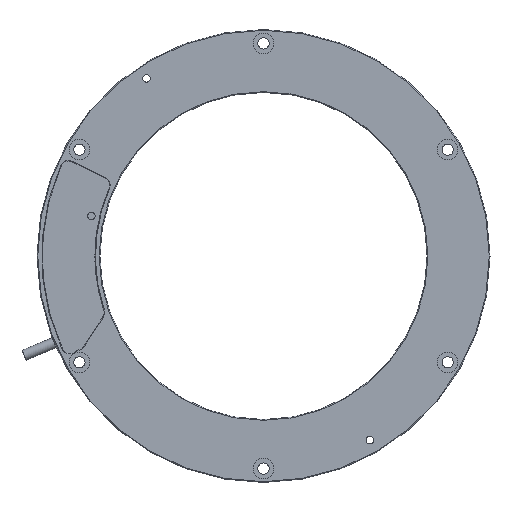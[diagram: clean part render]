
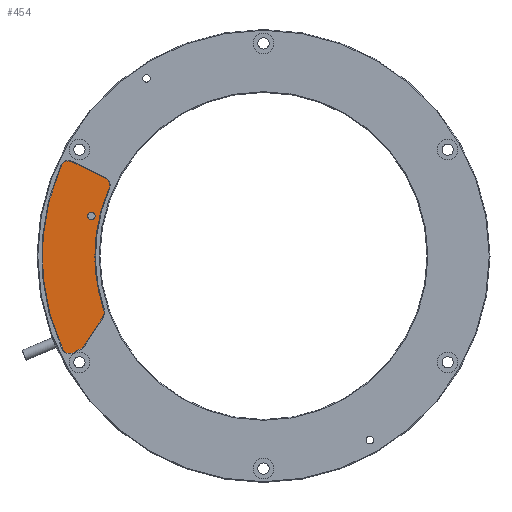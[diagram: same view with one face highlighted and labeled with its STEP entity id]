
A CAD part, front view. The second image highlights one B-rep face of the part: STEP entity #454.
In plain terms, the highlighted planar face has unit normal (0, -1, 0).
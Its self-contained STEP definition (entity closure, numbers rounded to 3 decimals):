
#141 = ORIENTED_EDGE ( 'NONE', *, *, #4641, .T. ) ;
#158 = CARTESIAN_POINT ( 'NONE',  ( 0., 0.2, 0. ) ) ;
#217 = EDGE_CURVE ( 'NONE', #6135, #1382, #6255, .T. ) ;
#219 = VERTEX_POINT ( 'NONE', #5140 ) ;
#263 = EDGE_CURVE ( 'NONE', #3100, #1396, #442, .T. ) ;
#306 = CARTESIAN_POINT ( 'NONE',  ( -62.836, 0.2, 30.919 ) ) ;
#442 = CIRCLE ( 'NONE', #4101, 67. ) ;
#454 = ADVANCED_FACE ( 'NONE', ( #4043, #5001 ), #5301, .T. ) ;
#479 = DIRECTION ( 'NONE',  ( 1., 0., 0. ) ) ;
#515 = DIRECTION ( 'NONE',  ( -0.897, 0., 0.442 ) ) ;
#533 = AXIS2_PLACEMENT_3D ( 'NONE', #693, #2750, #4667 ) ;
#584 = CARTESIAN_POINT ( 'NONE',  ( -80.325, 0.2, 35.944 ) ) ;
#693 = CARTESIAN_POINT ( 'NONE',  ( -66.39, 0.2, -22.502 ) ) ;
#756 = DIRECTION ( 'NONE',  ( 0., -1., 0. ) ) ;
#773 = EDGE_LOOP ( 'NONE', ( #879, #3454, #141, #5137, #2001, #5857, #5270, #4797, #4918, #6040, #5017, #3591 ) ) ;
#823 = DIRECTION ( 'NONE',  ( 0., -1., 0. ) ) ;
#879 = ORIENTED_EDGE ( 'NONE', *, *, #6173, .T. ) ;
#934 = EDGE_LOOP ( 'NONE', ( #5255, #3714 ) ) ;
#939 = DIRECTION ( 'NONE',  ( 0.892, 0., 0.452 ) ) ;
#996 = DIRECTION ( 'NONE',  ( 1., 0., 0. ) ) ;
#1010 = CARTESIAN_POINT ( 'NONE',  ( -71.751, 0.2, -36.401 ) ) ;
#1068 = DIRECTION ( 'NONE',  ( 1., 0., 0. ) ) ;
#1071 = VERTEX_POINT ( 'NONE', #6375 ) ;
#1141 = CARTESIAN_POINT ( 'NONE',  ( -75.663, 0.2, -38.386 ) ) ;
#1234 = EDGE_CURVE ( 'NONE', #2947, #6181, #3612, .T. ) ;
#1269 = CARTESIAN_POINT ( 'NONE',  ( 0., 0.2, 0. ) ) ;
#1315 = CARTESIAN_POINT ( 'NONE',  ( -64.205, 0.2, 28.138 ) ) ;
#1326 = AXIS2_PLACEMENT_3D ( 'NONE', #4516, #5442, #996 ) ;
#1382 = VERTEX_POINT ( 'NONE', #4398 ) ;
#1388 = VERTEX_POINT ( 'NONE', #2448 ) ;
#1396 = VERTEX_POINT ( 'NONE', #3826 ) ;
#1425 = CIRCLE ( 'NONE', #3223, 67. ) ;
#1575 = CIRCLE ( 'NONE', #533, 3.1 ) ;
#1767 = AXIS2_PLACEMENT_3D ( 'NONE', #3185, #756, #2250 ) ;
#1927 = CIRCLE ( 'NONE', #4911, 88. ) ;
#1943 = AXIS2_PLACEMENT_3D ( 'NONE', #1269, #5827, #4230 ) ;
#1953 = CARTESIAN_POINT ( 'NONE',  ( -66.9, 0.2, 15.9 ) ) ;
#2001 = ORIENTED_EDGE ( 'NONE', *, *, #3226, .T. ) ;
#2049 = CARTESIAN_POINT ( 'NONE',  ( -88., 0.2, 0. ) ) ;
#2083 = DIRECTION ( 'NONE',  ( 1., 0., 0. ) ) ;
#2250 = DIRECTION ( 'NONE',  ( 1., 0., 0. ) ) ;
#2285 = DIRECTION ( 'NONE',  ( 0., 1., 0. ) ) ;
#2288 = CARTESIAN_POINT ( 'NONE',  ( -67., 0.2, 0. ) ) ;
#2369 = DIRECTION ( 'NONE',  ( 1., 0., 0. ) ) ;
#2448 = CARTESIAN_POINT ( 'NONE',  ( -63.793, 0.2, -24.195 ) ) ;
#2452 = EDGE_CURVE ( 'NONE', #1382, #6135, #5220, .T. ) ;
#2483 = DIRECTION ( 'NONE',  ( 0.546, 0., 0.838 ) ) ;
#2570 = CARTESIAN_POINT ( 'NONE',  ( -77.066, 0.2, -35.622 ) ) ;
#2601 = EDGE_CURVE ( 'NONE', #4292, #6154, #1927, .T. ) ;
#2734 = EDGE_CURVE ( 'NONE', #3912, #4157, #2912, .T. ) ;
#2749 = DIRECTION ( 'NONE',  ( 0., -1., 0. ) ) ;
#2750 = DIRECTION ( 'NONE',  ( 0., -1., 0. ) ) ;
#2758 = EDGE_CURVE ( 'NONE', #6181, #4292, #4242, .T. ) ;
#2912 = CIRCLE ( 'NONE', #4137, 3.1 ) ;
#2941 = LINE ( 'NONE', #1010, #5482 ) ;
#2947 = VERTEX_POINT ( 'NONE', #306 ) ;
#2964 = CARTESIAN_POINT ( 'NONE',  ( -63.454, 0.2, -21.507 ) ) ;
#2993 = CARTESIAN_POINT ( 'NONE',  ( 0., 0.2, 0. ) ) ;
#2997 = EDGE_CURVE ( 'NONE', #6154, #3912, #4544, .T. ) ;
#3100 = VERTEX_POINT ( 'NONE', #2288 ) ;
#3185 = CARTESIAN_POINT ( 'NONE',  ( -73.894, 0.2, -34.012 ) ) ;
#3192 = CARTESIAN_POINT ( 'NONE',  ( -68.4, 0.2, 15.9 ) ) ;
#3223 = AXIS2_PLACEMENT_3D ( 'NONE', #2993, #4941, #479 ) ;
#3226 = EDGE_CURVE ( 'NONE', #1396, #2947, #6294, .T. ) ;
#3433 = CARTESIAN_POINT ( 'NONE',  ( -68.4, 0.2, 15.9 ) ) ;
#3436 = CARTESIAN_POINT ( 'NONE',  ( -71.751, 0.2, -36.401 ) ) ;
#3443 = VECTOR ( 'NONE', #939, 1000. ) ;
#3454 = ORIENTED_EDGE ( 'NONE', *, *, #5702, .T. ) ;
#3461 = EDGE_CURVE ( 'NONE', #1071, #219, #3848, .T. ) ;
#3591 = ORIENTED_EDGE ( 'NONE', *, *, #3461, .T. ) ;
#3612 = LINE ( 'NONE', #4975, #4322 ) ;
#3714 = ORIENTED_EDGE ( 'NONE', *, *, #2452, .F. ) ;
#3826 = CARTESIAN_POINT ( 'NONE',  ( -61.366, 0.2, 26.893 ) ) ;
#3848 = CIRCLE ( 'NONE', #1767, 3.1 ) ;
#3912 = VERTEX_POINT ( 'NONE', #4769 ) ;
#4020 = CARTESIAN_POINT ( 'NONE',  ( -76.126, 0.2, 37.459 ) ) ;
#4043 = FACE_BOUND ( 'NONE', #934, .T. ) ;
#4101 = AXIS2_PLACEMENT_3D ( 'NONE', #5237, #2285, #4784 ) ;
#4127 = CARTESIAN_POINT ( 'NONE',  ( 0., 0.2, 0. ) ) ;
#4132 = EDGE_CURVE ( 'NONE', #4157, #1071, #4455, .T. ) ;
#4137 = AXIS2_PLACEMENT_3D ( 'NONE', #2570, #5502, #1068 ) ;
#4157 = VERTEX_POINT ( 'NONE', #1141 ) ;
#4230 = DIRECTION ( 'NONE',  ( 1., 0., 0. ) ) ;
#4242 = CIRCLE ( 'NONE', #1326, 3.1 ) ;
#4251 = AXIS2_PLACEMENT_3D ( 'NONE', #1315, #823, #6298 ) ;
#4292 = VERTEX_POINT ( 'NONE', #584 ) ;
#4322 = VECTOR ( 'NONE', #515, 1000. ) ;
#4398 = CARTESIAN_POINT ( 'NONE',  ( -69.9, 0.2, 15.9 ) ) ;
#4455 = LINE ( 'NONE', #3436, #3443 ) ;
#4516 = CARTESIAN_POINT ( 'NONE',  ( -77.495, 0.2, 34.677 ) ) ;
#4544 = CIRCLE ( 'NONE', #5162, 88. ) ;
#4594 = DIRECTION ( 'NONE',  ( 1., 0., 0. ) ) ;
#4641 = EDGE_CURVE ( 'NONE', #6091, #3100, #1425, .T. ) ;
#4667 = DIRECTION ( 'NONE',  ( 1., 0., 0. ) ) ;
#4722 = AXIS2_PLACEMENT_3D ( 'NONE', #3192, #6145, #2083 ) ;
#4769 = CARTESIAN_POINT ( 'NONE',  ( -79.88, 0.2, -36.922 ) ) ;
#4784 = DIRECTION ( 'NONE',  ( 1., 0., 0. ) ) ;
#4797 = ORIENTED_EDGE ( 'NONE', *, *, #2601, .T. ) ;
#4911 = AXIS2_PLACEMENT_3D ( 'NONE', #4127, #5119, #6090 ) ;
#4918 = ORIENTED_EDGE ( 'NONE', *, *, #2997, .T. ) ;
#4941 = DIRECTION ( 'NONE',  ( 0., 1., 0. ) ) ;
#4975 = CARTESIAN_POINT ( 'NONE',  ( -78.959, 0.2, 38.853 ) ) ;
#5001 = FACE_OUTER_BOUND ( 'NONE', #773, .T. ) ;
#5017 = ORIENTED_EDGE ( 'NONE', *, *, #4132, .T. ) ;
#5119 = DIRECTION ( 'NONE',  ( 0., -1., 0. ) ) ;
#5137 = ORIENTED_EDGE ( 'NONE', *, *, #263, .T. ) ;
#5140 = CARTESIAN_POINT ( 'NONE',  ( -71.297, 0.2, -35.705 ) ) ;
#5162 = AXIS2_PLACEMENT_3D ( 'NONE', #158, #2749, #4594 ) ;
#5220 = CIRCLE ( 'NONE', #5936, 1.5 ) ;
#5237 = CARTESIAN_POINT ( 'NONE',  ( 0., 0.2, 0. ) ) ;
#5255 = ORIENTED_EDGE ( 'NONE', *, *, #217, .F. ) ;
#5270 = ORIENTED_EDGE ( 'NONE', *, *, #2758, .T. ) ;
#5301 = PLANE ( 'NONE',  #1943 ) ;
#5442 = DIRECTION ( 'NONE',  ( 0., -1., 0. ) ) ;
#5482 = VECTOR ( 'NONE', #2483, 1000. ) ;
#5502 = DIRECTION ( 'NONE',  ( 0., -1., 0. ) ) ;
#5702 = EDGE_CURVE ( 'NONE', #1388, #6091, #1575, .T. ) ;
#5804 = DIRECTION ( 'NONE',  ( 0., -1., 0. ) ) ;
#5827 = DIRECTION ( 'NONE',  ( 0., -1., 0. ) ) ;
#5857 = ORIENTED_EDGE ( 'NONE', *, *, #1234, .T. ) ;
#5936 = AXIS2_PLACEMENT_3D ( 'NONE', #3433, #5804, #2369 ) ;
#6040 = ORIENTED_EDGE ( 'NONE', *, *, #2734, .T. ) ;
#6090 = DIRECTION ( 'NONE',  ( 1., 0., 0. ) ) ;
#6091 = VERTEX_POINT ( 'NONE', #2964 ) ;
#6135 = VERTEX_POINT ( 'NONE', #1953 ) ;
#6145 = DIRECTION ( 'NONE',  ( 0., -1., 0. ) ) ;
#6154 = VERTEX_POINT ( 'NONE', #2049 ) ;
#6173 = EDGE_CURVE ( 'NONE', #219, #1388, #2941, .T. ) ;
#6181 = VERTEX_POINT ( 'NONE', #4020 ) ;
#6255 = CIRCLE ( 'NONE', #4722, 1.5 ) ;
#6294 = CIRCLE ( 'NONE', #4251, 3.1 ) ;
#6298 = DIRECTION ( 'NONE',  ( 1., 0., 0. ) ) ;
#6375 = CARTESIAN_POINT ( 'NONE',  ( -72.492, 0.2, -36.777 ) ) ;
